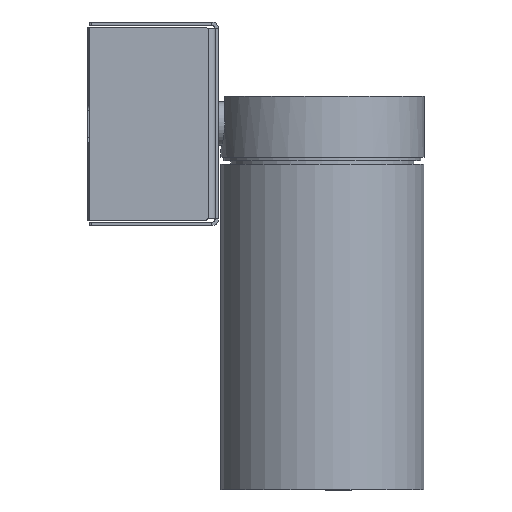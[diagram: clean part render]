
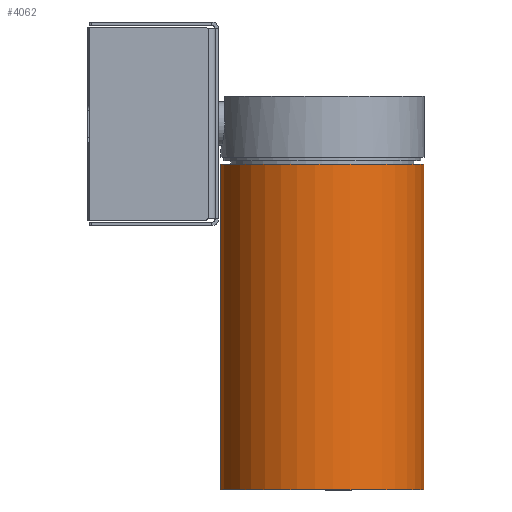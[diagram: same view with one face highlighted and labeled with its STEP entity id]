
A CAD part, left-side view. The second image highlights one B-rep face of the part: STEP entity #4062.
In plain terms, the highlighted cylindrical face has radius 30 mm (diameter 60 mm), a full revolution.
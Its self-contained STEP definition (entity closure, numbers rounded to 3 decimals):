
#189=CYLINDRICAL_SURFACE('',#4534,30.);
#420=FACE_OUTER_BOUND('',#691,.T.);
#691=EDGE_LOOP('',(#3457,#3458,#3459,#3460));
#899=CIRCLE('',#4533,30.);
#900=CIRCLE('',#4535,30.);
#1210=LINE('',#6968,#1520);
#1520=VECTOR('',#5724,30.);
#1856=VERTEX_POINT('',#6963);
#1857=VERTEX_POINT('',#6966);
#2390=EDGE_CURVE('',#1856,#1856,#899,.T.);
#2391=EDGE_CURVE('',#1857,#1857,#900,.T.);
#2392=EDGE_CURVE('',#1857,#1856,#1210,.T.);
#3457=ORIENTED_EDGE('',*,*,#2391,.F.);
#3458=ORIENTED_EDGE('',*,*,#2392,.T.);
#3459=ORIENTED_EDGE('',*,*,#2390,.F.);
#3460=ORIENTED_EDGE('',*,*,#2392,.F.);
#4062=ADVANCED_FACE('',(#420),#189,.T.);
#4533=AXIS2_PLACEMENT_3D('',#6964,#5718,#5719);
#4534=AXIS2_PLACEMENT_3D('',#6965,#5720,#5721);
#4535=AXIS2_PLACEMENT_3D('',#6967,#5722,#5723);
#5718=DIRECTION('center_axis',(0.,0.,
-1.));
#5719=DIRECTION('ref_axis',(-0.995,-0.1,0.));
#5720=DIRECTION('center_axis',(0.,0.,
1.));
#5721=DIRECTION('ref_axis',(-0.995,-0.1,0.));
#5722=DIRECTION('center_axis',(0.,0.,
1.));
#5723=DIRECTION('ref_axis',(-0.995,-0.1,0.));
#5724=DIRECTION('',(0.,0.,-1.));
#6963=CARTESIAN_POINT('',(57.349,-66.09,-107.9));
#6964=CARTESIAN_POINT('Origin',(27.5,-69.1,-107.9));
#6965=CARTESIAN_POINT('Origin',(27.5,-69.1,-59.9));
#6966=CARTESIAN_POINT('',(57.349,-66.09,-11.9));
#6967=CARTESIAN_POINT('Origin',(27.5,-69.1,-11.9));
#6968=CARTESIAN_POINT('',(57.349,-66.09,-59.9));
